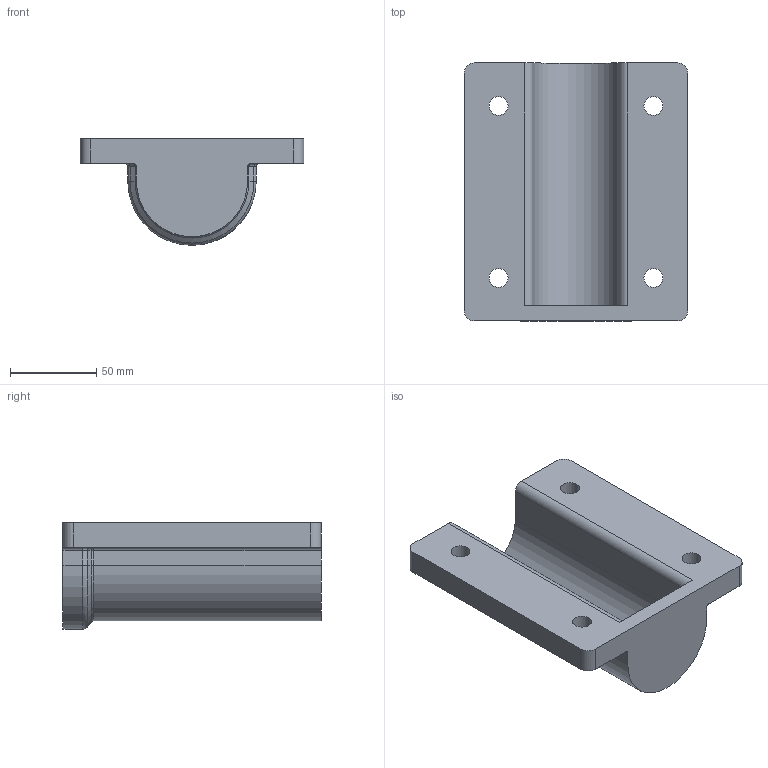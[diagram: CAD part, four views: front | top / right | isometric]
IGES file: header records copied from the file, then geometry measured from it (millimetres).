
Start section: SolidWorks IGES file using analytic representation for surfaces
Global section: file name: D:\Praca\Zlecenia prywatne\Konrad Izdebski Evergrip\KIE_018 Elementy z³¹czne\Dokumentacja\IGES\KIE_018.A16.IGS; native system: SolidWorks 2023; preprocessor: SolidWorks 2023; author: patry; date: 250122.211953; units: millimetre
Bounding box: 130 x 150 x 62 mm (x, y, z)
Surface area: 72480.7 mm2 (no closed solid volume)
Topology: 0 solids, 0 shells, 59 faces, 551 edges, 545 vertices
Faces by surface type: revolution 30, bspline 29
